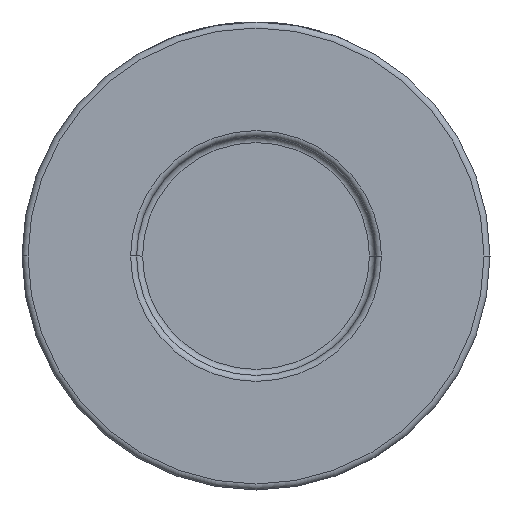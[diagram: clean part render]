
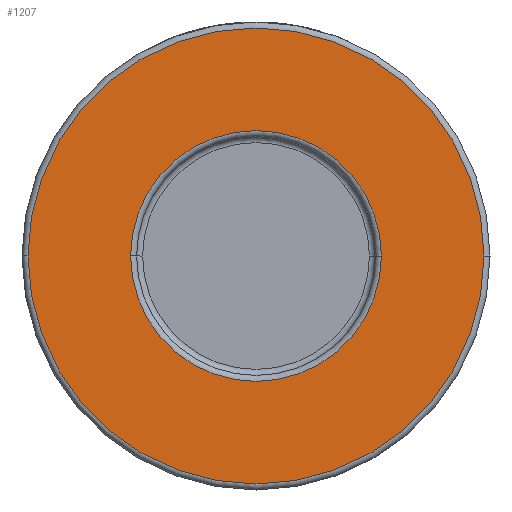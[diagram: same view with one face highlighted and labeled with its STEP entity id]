
A CAD part, front view. The second image highlights one B-rep face of the part: STEP entity #1207.
In plain terms, the highlighted planar face has unit normal (0, -1, 0).
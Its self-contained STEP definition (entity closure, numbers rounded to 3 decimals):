
#241 = CARTESIAN_POINT ( 'NONE',  ( -20.9, -19., 0. ) ) ;
#492 = EDGE_LOOP ( 'NONE', ( #4500, #3043 ) ) ;
#732 = EDGE_CURVE ( 'NONE', #4096, #2991, #4065, .T. ) ;
#817 = DIRECTION ( 'NONE',  ( 0., -1., 0. ) ) ;
#974 = EDGE_LOOP ( 'NONE', ( #1323, #3511 ) ) ;
#1088 = EDGE_CURVE ( 'NONE', #2324, #2028, #3840, .T. ) ;
#1133 = AXIS2_PLACEMENT_3D ( 'NONE', #3498, #2433, #1412 ) ;
#1207 = ADVANCED_FACE ( 'NONE', ( #2612, #4018 ), #2268, .T. ) ;
#1323 = ORIENTED_EDGE ( 'NONE', *, *, #732, .T. ) ;
#1412 = DIRECTION ( 'NONE',  ( 1., 0., 0. ) ) ;
#1984 = CARTESIAN_POINT ( 'NONE',  ( 39., -19., 0. ) ) ;
#2001 = DIRECTION ( 'NONE',  ( 0., -1., 0. ) ) ;
#2028 = VERTEX_POINT ( 'NONE', #4454 ) ;
#2248 = CARTESIAN_POINT ( 'NONE',  ( 0., -19., 0. ) ) ;
#2268 = PLANE ( 'NONE',  #2603 ) ;
#2324 = VERTEX_POINT ( 'NONE', #3105 ) ;
#2370 = AXIS2_PLACEMENT_3D ( 'NONE', #2248, #817, #3685 ) ;
#2412 = CARTESIAN_POINT ( 'NONE',  ( 0., -19., 0. ) ) ;
#2433 = DIRECTION ( 'NONE',  ( 0., 1., 0. ) ) ;
#2514 = DIRECTION ( 'NONE',  ( 0., 1., 0. ) ) ;
#2603 = AXIS2_PLACEMENT_3D ( 'NONE', #1984, #2001, #4528 ) ;
#2612 = FACE_BOUND ( 'NONE', #974, .T. ) ;
#2900 = CIRCLE ( 'NONE', #3931, 20.9 ) ;
#2991 = VERTEX_POINT ( 'NONE', #241 ) ;
#3037 = AXIS2_PLACEMENT_3D ( 'NONE', #3041, #4421, #4082 ) ;
#3041 = CARTESIAN_POINT ( 'NONE',  ( 0., -19., 0. ) ) ;
#3043 = ORIENTED_EDGE ( 'NONE', *, *, #1088, .T. ) ;
#3105 = CARTESIAN_POINT ( 'NONE',  ( -38., -19., 0. ) ) ;
#3342 = CIRCLE ( 'NONE', #3037, 38. ) ;
#3498 = CARTESIAN_POINT ( 'NONE',  ( 0., -19., 0. ) ) ;
#3511 = ORIENTED_EDGE ( 'NONE', *, *, #3852, .T. ) ;
#3685 = DIRECTION ( 'NONE',  ( 1., 0., 0. ) ) ;
#3776 = EDGE_CURVE ( 'NONE', #2028, #2324, #3342, .T. ) ;
#3840 = CIRCLE ( 'NONE', #2370, 38. ) ;
#3852 = EDGE_CURVE ( 'NONE', #2991, #4096, #2900, .T. ) ;
#3893 = DIRECTION ( 'NONE',  ( 1., 0., 0. ) ) ;
#3931 = AXIS2_PLACEMENT_3D ( 'NONE', #2412, #2514, #3893 ) ;
#4018 = FACE_OUTER_BOUND ( 'NONE', #492, .T. ) ;
#4065 = CIRCLE ( 'NONE', #1133, 20.9 ) ;
#4082 = DIRECTION ( 'NONE',  ( 1., 0., 0. ) ) ;
#4096 = VERTEX_POINT ( 'NONE', #4497 ) ;
#4421 = DIRECTION ( 'NONE',  ( 0., -1., 0. ) ) ;
#4454 = CARTESIAN_POINT ( 'NONE',  ( 38., -19., 0. ) ) ;
#4497 = CARTESIAN_POINT ( 'NONE',  ( 20.9, -19., 0. ) ) ;
#4500 = ORIENTED_EDGE ( 'NONE', *, *, #3776, .T. ) ;
#4528 = DIRECTION ( 'NONE',  ( 1., 0., 0. ) ) ;
